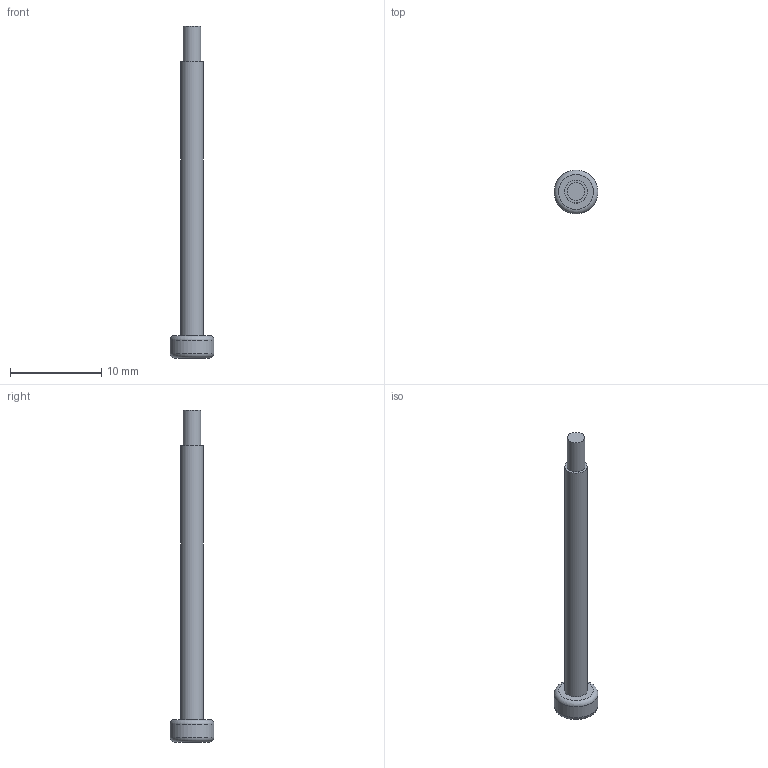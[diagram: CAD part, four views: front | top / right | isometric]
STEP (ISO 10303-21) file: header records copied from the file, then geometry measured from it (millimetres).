
FILE_DESCRIPTION(/* description */ (''),/* implementation_level */ '2;1');
FILE_NAME(/* name */ 'Y-JG-WJ-B00147-01.stp',/* time_stamp */ '2024-04-13T19:05:59+08:00',/* author */ (''),/* organization */ (''),/* preprocessor_version */ 'ST-DEVELOPER v16',/* originating_system */ 'SIEMENS PLM Software NX 10.0',/* authorisation */ '');
FILE_SCHEMA (('AUTOMOTIVE_DESIGN { 1 0 10303 214 3 1 1 1 }'));
Length unit declared in the file: millimetre
Products named in the file (1): _model3
Bounding box: 4.8 x 4.8 x 36.3 mm (x, y, z)
Volume: 192.6 mm3; surface area: 329.3 mm2
Topology: 1 solids, 1 shells, 16 faces, 31 edges, 20 vertices
Faces by surface type: plane 11, cylinder 3, torus 2
Full cylindrical faces by diameter (mm): 1.93 x1, 2.46 x1, 4.8 x1
Entity records: 406 total; most frequent: DIRECTION 68, CARTESIAN_POINT 63, ORIENTED_EDGE 52, EDGE_CURVE 26, AXIS2_PLACEMENT_3D 25, EDGE_LOOP 24, VERTEX_POINT 20, LINE 18
